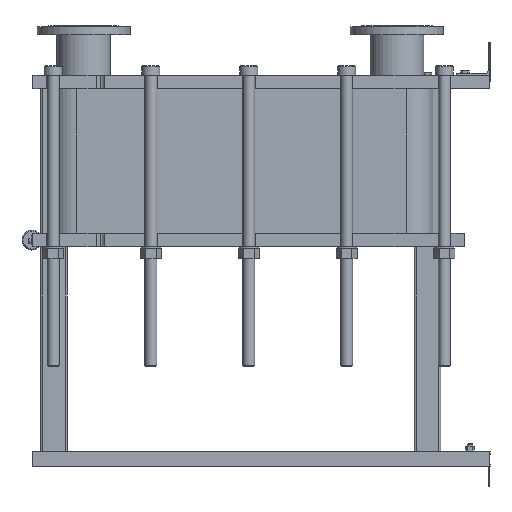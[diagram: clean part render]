
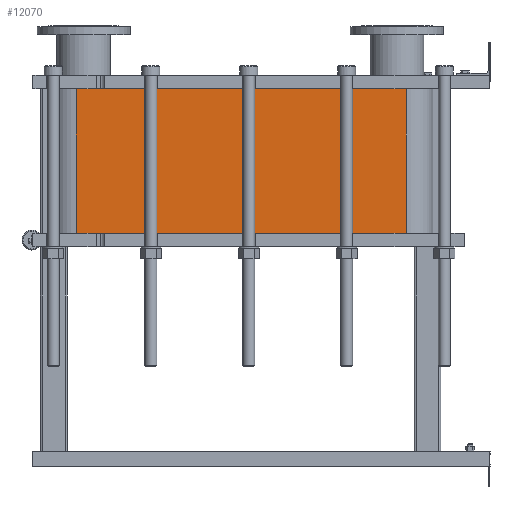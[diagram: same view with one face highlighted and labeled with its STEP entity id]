
A CAD part, left-side view. The second image highlights one B-rep face of the part: STEP entity #12070.
In plain terms, the highlighted planar face has unit normal (-1, 0, 0).
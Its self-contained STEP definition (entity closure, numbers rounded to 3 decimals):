
#1064=LINE('',#21140,#2164);
#1065=LINE('',#21144,#2165);
#1066=LINE('',#21146,#2166);
#1067=LINE('',#21147,#2167);
#2164=VECTOR('',#15790,10.);
#2165=VECTOR('',#15795,10.);
#2166=VECTOR('',#15796,10.);
#2167=VECTOR('',#15797,10.);
#3304=FACE_OUTER_BOUND('',#4091,.T.);
#4091=EDGE_LOOP('',(#9793,#9794,#9795,#9796));
#5677=VERTEX_POINT('',#21137);
#5678=VERTEX_POINT('',#21139);
#5679=VERTEX_POINT('',#21143);
#5680=VERTEX_POINT('',#21145);
#7118=EDGE_CURVE('',#5678,#5677,#1064,.T.);
#7120=EDGE_CURVE('',#5677,#5679,#1065,.T.);
#7121=EDGE_CURVE('',#5680,#5679,#1066,.T.);
#7122=EDGE_CURVE('',#5680,#5678,#1067,.T.);
#9793=ORIENTED_EDGE('',*,*,#7120,.T.);
#9794=ORIENTED_EDGE('',*,*,#7121,.F.);
#9795=ORIENTED_EDGE('',*,*,#7122,.T.);
#9796=ORIENTED_EDGE('',*,*,#7118,.T.);
#11441=PLANE('',#13191);
#12070=ADVANCED_FACE('',(#3304),#11441,.T.);
#13191=AXIS2_PLACEMENT_3D('',#21142,#15793,#15794);
#15790=DIRECTION('',(0.,0.,-1.));
#15793=DIRECTION('center_axis',(-1.,0.,0.));
#15794=DIRECTION('ref_axis',(0.,1.,0.));
#15795=DIRECTION('',(0.,-1.,0.));
#15796=DIRECTION('',(0.,0.,-1.));
#15797=DIRECTION('',(0.,1.,0.));
#21137=CARTESIAN_POINT('',(-248.152,1243.818,-434.7));
#21139=CARTESIAN_POINT('',(-248.152,1243.818,0.));
#21140=CARTESIAN_POINT('',(-248.152,1243.818,0.));
#21142=CARTESIAN_POINT('Origin',(-248.152,251.818,0.));
#21143=CARTESIAN_POINT('',(-248.152,251.818,-434.7));
#21144=CARTESIAN_POINT('',(-248.152,499.818,-434.7));
#21145=CARTESIAN_POINT('',(-248.152,251.818,0.));
#21146=CARTESIAN_POINT('',(-248.152,251.818,0.));
#21147=CARTESIAN_POINT('',(-248.152,251.818,0.));
